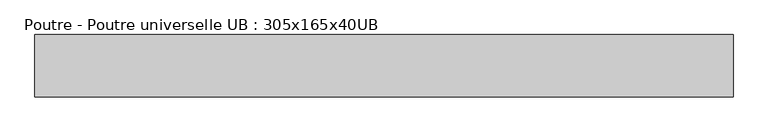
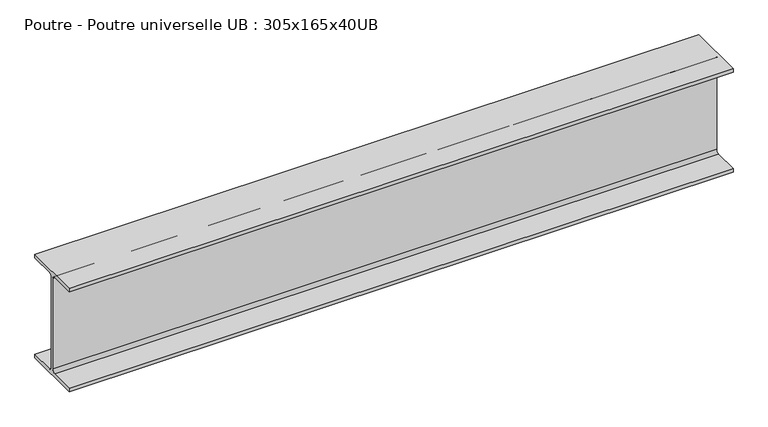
"""IFC4 building model written with IfcOpenShell, lengths in millimetres: beam geometry, Poutre - Poutre universelle UB : 305x165x40UB."""

from ifc_helpers import new_model, si_unit, point, frame, frame_2d, origin, place, context, project, spatial, polyline, circle_curve, trimmed, segment, composite_curve, outline, extrude, source, transform, mapped, element, save


def poutre_poutre_universelle_ub_305x165x40ub_894c53d9(model_context):
    return source(origin(), model_context, "Body", "SweptSolid", [
        extrude(outline(composite_curve([segment(polyline([(82.5, -141.5), (82.5, -151.7), (-82.5, -151.7), (-82.5, -141.5), (-11.9, -141.5)]), True, "CONTINUOUS"), segment(trimmed(circle_curve(frame_2d((-11.9, -132.6)), 8.9), [point((-11.9, -141.5))], [point((-3.0, -132.6))], True, "CARTESIAN"), True, "CONTINUOUS"), segment(polyline([(-3.0, -132.6), (-3.0, 132.6)]), True, "CONTINUOUS"), segment(trimmed(circle_curve(frame_2d((-11.9, 132.6)), 8.9), [point((-3.0, 132.6))], [point((-11.9, 141.5))], True, "CARTESIAN"), True, "CONTINUOUS"), segment(polyline([(-11.9, 141.5), (-82.5, 141.5), (-82.5, 151.7), (82.5, 151.7), (82.5, 141.5), (11.9, 141.5)]), True, "CONTINUOUS"), segment(trimmed(circle_curve(frame_2d((11.9, 132.6)), 8.9), [point((11.9, 141.5))], [point((3.0, 132.6))], True, "CARTESIAN"), True, "CONTINUOUS"), segment(polyline([(3.0, 132.6), (3.0, -132.6)]), True, "CONTINUOUS"), segment(trimmed(circle_curve(frame_2d((11.9, -132.6)), 8.9), [point((3.0, -132.6))], [point((11.9, -141.5))], True, "CARTESIAN"), True, "CONTINUOUS"), segment(polyline([(11.9, -141.5), (82.5, -141.5)]), True, "CONTINUOUS")], self_intersect=False)), frame((-917.0, 0.0, 0.0), z_axis=(1.0, 0.0, 0.0), x_axis=(0.0, 1.0, 0.0)), (0.0, 0.0, 1.0), 1843.0),
    ])


if __name__ == "__main__":
    model = new_model("IFC4")
    model_context = context("Model", 3, world=origin())
    ifc_project = project(units=[si_unit("LENGTHUNIT", "METRE", prefix="MILLI")], contexts=[model_context])
    site = spatial("IfcSite", under=ifc_project)
    building = spatial("IfcBuilding", under=site)
    placement = place(None, origin())
    poutre_poutre_universelle_ub_305x165x40ub_shape = poutre_poutre_universelle_ub_305x165x40ub_894c53d9(model_context)
    element("IfcBeam", 1, ObjectType="Poutre - Poutre universelle UB : 305x165x40UB", at=placement, inside=building, context=model_context, shape_type="MappedRepresentation", body=[
        mapped(poutre_poutre_universelle_ub_305x165x40ub_shape, transform((0.0, 0.0, 0.0), x_axis=(1.0, 0.0, 0.0), y_axis=(0.0, 1.0, 0.0), z_axis=(0.0, 0.0, 1.0))),
    ])
    save(model, "model.ifc")
